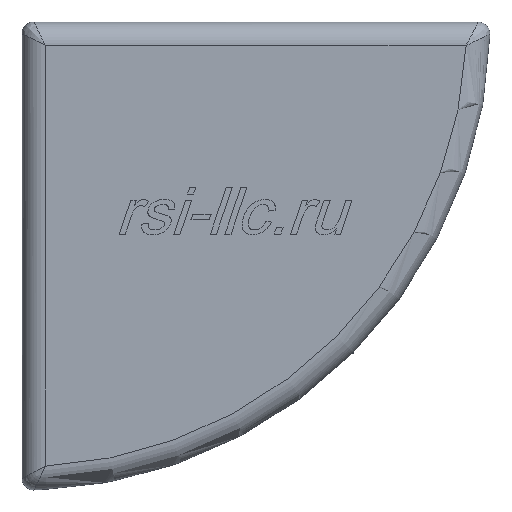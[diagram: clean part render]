
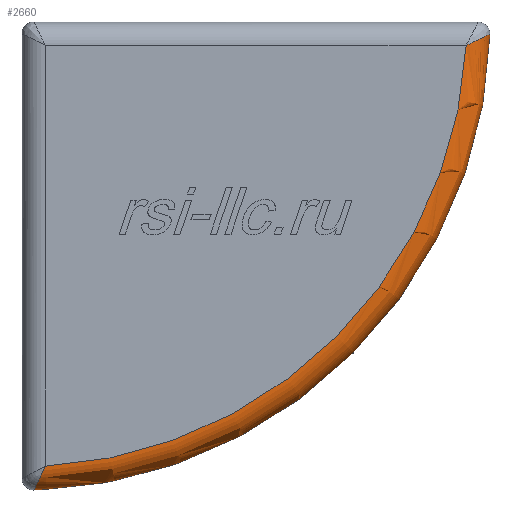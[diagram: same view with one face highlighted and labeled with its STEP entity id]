
A CAD part, front view. The second image highlights one B-rep face of the part: STEP entity #2660.
In plain terms, the highlighted toroidal (fillet/blend) face has major radius 38.013 mm and minor radius 2 mm.
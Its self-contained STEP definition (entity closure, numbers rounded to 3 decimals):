
#10 = CARTESIAN_POINT ( 'NONE',  ( 39.546, 0.732, -1.248 ) ) ;
#11 = CARTESIAN_POINT ( 'NONE',  ( 1.432, 0.364, -39.167 ) ) ;
#170 = ORIENTED_EDGE ( 'NONE', *, *, #6002, .T. ) ;
#641 = CARTESIAN_POINT ( 'NONE',  ( 39.167, 0.364, -1.432 ) ) ;
#642 = CARTESIAN_POINT ( 'NONE',  ( 1.248, 0.732, -39.546 ) ) ;
#749 = CARTESIAN_POINT ( 'NONE',  ( 37.96, 0., -2. ) ) ;
#1184 = CIRCLE ( 'NONE', #2537, 40.013 ) ;
#1214 = CARTESIAN_POINT ( 'NONE',  ( 40., 2., -1.026 ) ) ;
#1239 = CARTESIAN_POINT ( 'NONE',  ( 38.588, 0.092, -1.707 ) ) ;
#1240 = CARTESIAN_POINT ( 'NONE',  ( 1.138, 1.067, -39.771 ) ) ;
#1363 = DIRECTION ( 'NONE',  ( 0., 1., 0. ) ) ;
#1840 = CARTESIAN_POINT ( 'NONE',  ( 38.215, 0.012, -1.882 ) ) ;
#1841 = CARTESIAN_POINT ( 'NONE',  ( 1.062, 1.45, -39.927 ) ) ;
#2022 = VERTEX_POINT ( 'NONE', #749 ) ;
#2333 = ORIENTED_EDGE ( 'NONE', *, *, #7605, .F. ) ;
#2371 = ORIENTED_EDGE ( 'NONE', *, *, #5338, .T. ) ;
#2400 = CARTESIAN_POINT ( 'NONE',  ( 1.882, 0., -38.215 ) ) ;
#2421 = CARTESIAN_POINT ( 'NONE',  ( 39.985, 1.721, -1.033 ) ) ;
#2443 = CARTESIAN_POINT ( 'NONE',  ( 37.96, 0., -2. ) ) ;
#2444 = CARTESIAN_POINT ( 'NONE',  ( 1.026, 1.859, -40. ) ) ;
#2483 = CARTESIAN_POINT ( 'NONE',  ( 0., 0., 0. ) ) ;
#2537 = AXIS2_PLACEMENT_3D ( 'NONE', #4936, #1363, #5559 ) ;
#2660 = ADVANCED_FACE ( 'NONE', ( #6123 ), #3114, .T. ) ;
#2735 = AXIS2_PLACEMENT_3D ( 'NONE', #3239, #5047, #5661 ) ;
#3021 = CARTESIAN_POINT ( 'NONE',  ( 39.883, 1.317, -1.083 ) ) ;
#3078 = DIRECTION ( 'NONE',  ( 0., 0., 1. ) ) ;
#3114 = TOROIDAL_SURFACE ( 'NONE', #2735, 38.013, 2. ) ;
#3139 = B_SPLINE_CURVE_WITH_KNOTS ( 'NONE', 3,
 ( #1214, #4792, #2421, #6603, #3021, #7220, #3629, #10, #4214, #641, #4819, #1239, #5439, #1840, #6045, #2443 ),
 .UNSPECIFIED., .F., .F.,
 ( 4, 2, 2, 2, 2, 2, 2, 4 ),
 ( 0., 0., 0.001, 0.001, 0.002, 0.003, 0.003, 0.003 ),
 .UNSPECIFIED. ) ;
#3239 = CARTESIAN_POINT ( 'NONE',  ( 0., 2., 0. ) ) ;
#3335 = AXIS2_PLACEMENT_3D ( 'NONE', #2483, #6669, #3078 ) ;
#3459 = CARTESIAN_POINT ( 'NONE',  ( 40., 2., -1.026 ) ) ;
#3629 = CARTESIAN_POINT ( 'NONE',  ( 39.702, 0.949, -1.172 ) ) ;
#3630 = CARTESIAN_POINT ( 'NONE',  ( 1.537, 0.23, -38.948 ) ) ;
#4010 = VERTEX_POINT ( 'NONE', #5754 ) ;
#4214 = CARTESIAN_POINT ( 'NONE',  ( 39.458, 0.633, -1.291 ) ) ;
#4215 = CARTESIAN_POINT ( 'NONE',  ( 1.291, 0.633, -39.458 ) ) ;
#4792 = CARTESIAN_POINT ( 'NONE',  ( 40., 1.859, -1.026 ) ) ;
#4819 = CARTESIAN_POINT ( 'NONE',  ( 38.948, 0.23, -1.537 ) ) ;
#4820 = CARTESIAN_POINT ( 'NONE',  ( 1.172, 0.949, -39.702 ) ) ;
#4936 = CARTESIAN_POINT ( 'NONE',  ( 0., 2., 0. ) ) ;
#5047 = DIRECTION ( 'NONE',  ( 0., 1., 0. ) ) ;
#5083 = CIRCLE ( 'NONE', #3335, 38.013 ) ;
#5338 = EDGE_CURVE ( 'NONE', #7438, #2022, #3139, .T. ) ;
#5439 = CARTESIAN_POINT ( 'NONE',  ( 38.466, 0.058, -1.765 ) ) ;
#5440 = CARTESIAN_POINT ( 'NONE',  ( 1.083, 1.317, -39.883 ) ) ;
#5559 = DIRECTION ( 'NONE',  ( 0., 0., 1. ) ) ;
#5661 = DIRECTION ( 'NONE',  ( 0., 0., 1. ) ) ;
#5754 = CARTESIAN_POINT ( 'NONE',  ( 2., 0., -37.96 ) ) ;
#5919 = ORIENTED_EDGE ( 'NONE', *, *, #6652, .F. ) ;
#6002 = EDGE_CURVE ( 'NONE', #4010, #6885, #7306, .T. ) ;
#6045 = CARTESIAN_POINT ( 'NONE',  ( 38.087, 0., -1.942 ) ) ;
#6046 = CARTESIAN_POINT ( 'NONE',  ( 1.033, 1.721, -39.985 ) ) ;
#6123 = FACE_OUTER_BOUND ( 'NONE', #6473, .T. ) ;
#6473 = EDGE_LOOP ( 'NONE', ( #2371, #2333, #170, #5919 ) ) ;
#6603 = CARTESIAN_POINT ( 'NONE',  ( 39.927, 1.45, -1.062 ) ) ;
#6604 = CARTESIAN_POINT ( 'NONE',  ( 2., 0., -37.96 ) ) ;
#6628 = CARTESIAN_POINT ( 'NONE',  ( 1.026, 2., -40. ) ) ;
#6652 = EDGE_CURVE ( 'NONE', #7438, #6885, #1184, .T. ) ;
#6669 = DIRECTION ( 'NONE',  ( 0., -1., 0. ) ) ;
#6885 = VERTEX_POINT ( 'NONE', #7425 ) ;
#7220 = CARTESIAN_POINT ( 'NONE',  ( 39.771, 1.067, -1.138 ) ) ;
#7221 = CARTESIAN_POINT ( 'NONE',  ( 1.764, 0.046, -38.469 ) ) ;
#7306 = B_SPLINE_CURVE_WITH_KNOTS ( 'NONE', 3,
 ( #6604, #2400, #7221, #3630, #11, #4215, #642, #4820, #1240, #5440, #1841, #6046, #2444, #6628 ),
 .UNSPECIFIED., .F., .F.,
 ( 4, 2, 2, 2, 2, 2, 4 ),
 ( 0., 0.001, 0.002, 0.002, 0.003, 0.003, 0.003 ),
 .UNSPECIFIED. ) ;
#7425 = CARTESIAN_POINT ( 'NONE',  ( 1.026, 2., -40. ) ) ;
#7438 = VERTEX_POINT ( 'NONE', #3459 ) ;
#7605 = EDGE_CURVE ( 'NONE', #4010, #2022, #5083, .T. ) ;
